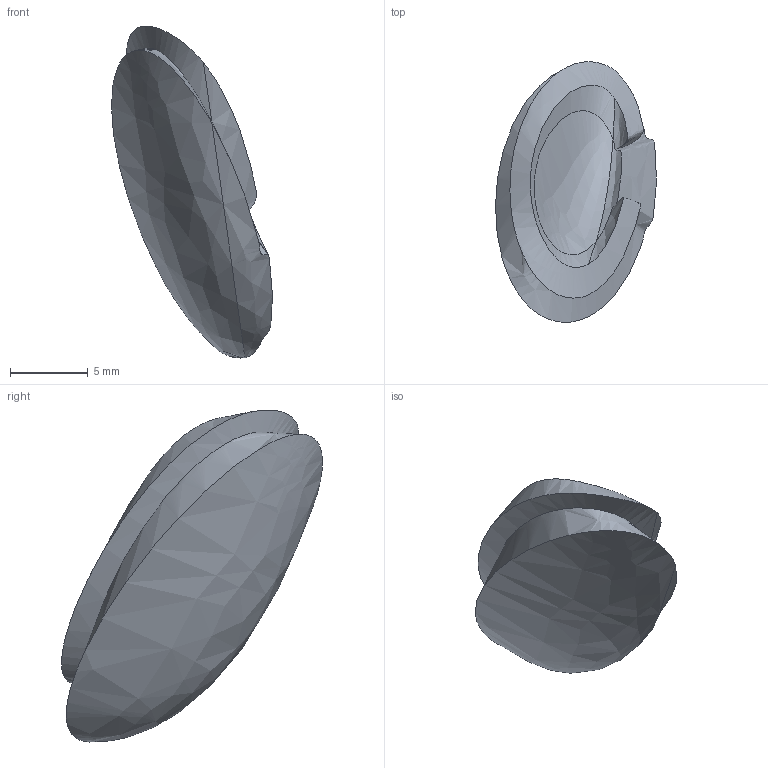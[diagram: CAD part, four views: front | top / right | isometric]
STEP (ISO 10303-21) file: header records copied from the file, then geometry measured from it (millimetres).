
FILE_DESCRIPTION(('Open CASCADE Model'),'2;1');
FILE_NAME('Open CASCADE Shape Model','2026-11-01T16:33:34',('Author'),( 'Open CASCADE'),'Open CASCADE STEP processor 8.0','build123d', 'Unknown');
FILE_SCHEMA(('AUTOMOTIVE_DESIGN { 1 0 10303 214 1 1 1 1 }'));
Length unit declared in the file: millimetre
Products named in the file (2): =>[0:1:1:2]; SOLID
Assembly tree (1 placements, depth 2):
  =>[0:1:1:2]
    SOLID
Bounding box: 10.35 x 16.78 x 21.35 mm (x, y, z)
Volume: 787 mm3; surface area: 704 mm2
Topology: 1 solids, 1 shells, 12 faces, 32 edges, 20 vertices
Faces by surface type: bspline 12
Entity records: 15634 total; most frequent: CARTESIAN_POINT 15211, B_SPLINE_CURVE_WITH_KNOTS 79, ORIENTED_EDGE 60, PCURVE 60, DEFINITIONAL_REPRESENTATION 60, EDGE_CURVE 30, SURFACE_CURVE 29, VERTEX_POINT 20
